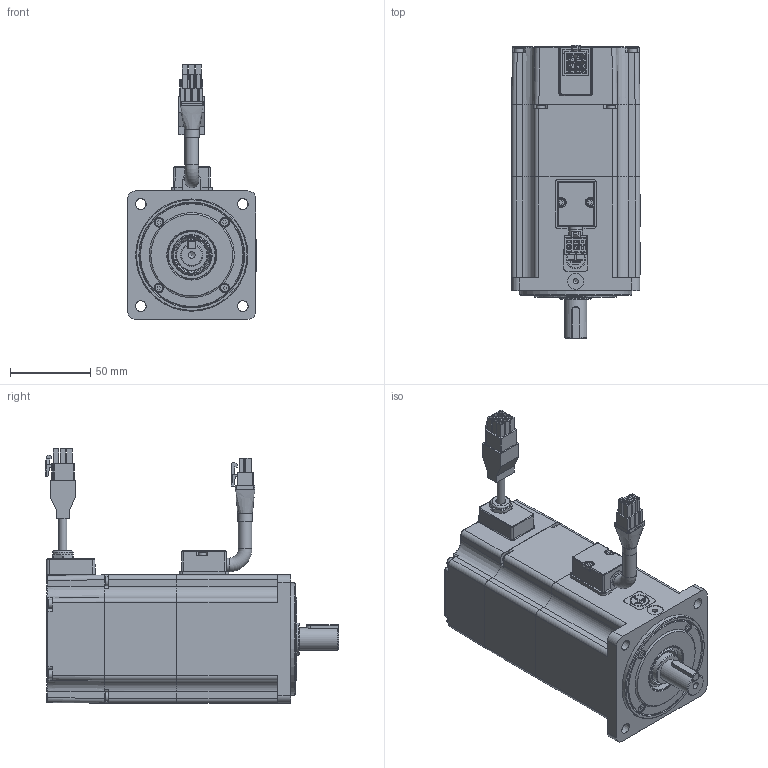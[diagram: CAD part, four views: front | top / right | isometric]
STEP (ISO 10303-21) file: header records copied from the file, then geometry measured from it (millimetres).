
FILE_DESCRIPTION( ( 'Unknown' ), '1' );
FILE_NAME( 'X:/05_Progetto TCE/010-TCE motor drawings/TCE80/vuoti/TCE80 3A XX 3 A2 1 D0.stp', 'Unknown', ( 'Unknown' ), ( 'Unknown' ), 'PSStep 17.0.49', 'Unknown', ' ' );
FILE_SCHEMA( ( 'AUTOMOTIVE_DESIGN { 1 0 10303 214 1 1 1 1 }' ) );
Length unit declared in the file: millimetre
Products named in the file (58): 003108015152_curva; 003303000376; 005453000452_D8,5; 003108020178_dritto; 005603001018; 003303000021; 005711000200; 005711000200-oa3; U5120003_vuoto; 003120002504; cap-M3 nudo; 001799000503; 005911003639; 005911000598; 005711000130; Assem1; 003103001504; 001107000619; 003251022002; 005204000001; 005008000740-oa0; 005008000690-oa1; 005008000690-oa2; 005113000362; 005204000003; 005911000004; 005204000002; 005119001502; 003155000302; 005911000182; 005911000493; 005123000800; 005123000690; 005008000908-oa4; 005911003621; 003003199321
Assembly tree (70 placements, depth 4):
  Assem1
    003103001504
    001107000619
    003251022002
    005204000001
    005008000740-oa0
    005008000690-oa1
    005008000690-oa2
    005113000362
    005204000003
    005911000004  x4
    005204000002
    005119001502
    005119001502
    003155000302
    005911000182  x4
    005911000493  x4
    005123000800
    005123000800
    005123000800
    005123000800
    005123000800
    005123000800
    005123000800
    005123000800
    005123000800
    005123000690
    005123000690
    005123000690
    005123000690
    005123000690
    005123000690
    005123000690
    005123000690
    005008000908-oa4
    005911003621  x4
    003003199321
    003108020178_dritto
      005603001018
      003303000021
      005711000200
      005711000200-oa3
      003108020178_dritto
      003108020178_dritto
    U5120003_vuoto
      003120002504
      003120002504
      cap-M3 nudo
      001799000503
      005911003639
      005911000598  x2
      005711000130
      003108015152_curva
        003303000376
        005453000452_D8,5
        003108015152_curva
        003108015152_curva
        003108015152_curva
Bounding box: 80.3 x 182.9 x 158.7 mm (x, y, z)
Volume: 377268 mm3; surface area: 203134.7 mm2
Topology: 67 solids, 67 shells, 2325 faces, 5761 edges, 3689 vertices
Faces by surface type: plane 1386, cylinder 477, torus 129, cone 124, bspline 111, sphere 61, extrusion 37
Full cylindrical faces by diameter (mm): 2.013 x3, 2.459 x37, 2.5 x3, 2.6 x9, 2.7 x2, 3 x16, 3.2 x2, 3.242 x4, 3.5 x16, 4.134 x2, 4.7 x4, 5 x1, 5.2 x1, 5.3 x2, 5.5 x17, 6 x1, 7.2 x1, 8 x4, 8.1 x1, 8.5 x2, 8.51 x1, 9.11 x1, 10 x3, 10.3 x2, 10.647 x1, 11 x1, 12 x2, 12.7 x1, 14 x1, 14.98 x1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
Entity records: 87524 total; most frequent: CARTESIAN_POINT 21520, DIRECTION 9913, ORIENTED_EDGE 9724, EDGE_CURVE 4862, VERTEX_POINT 3345, AXIS2_PLACEMENT_3D 3330, VECTOR 3253, LINE 3216
